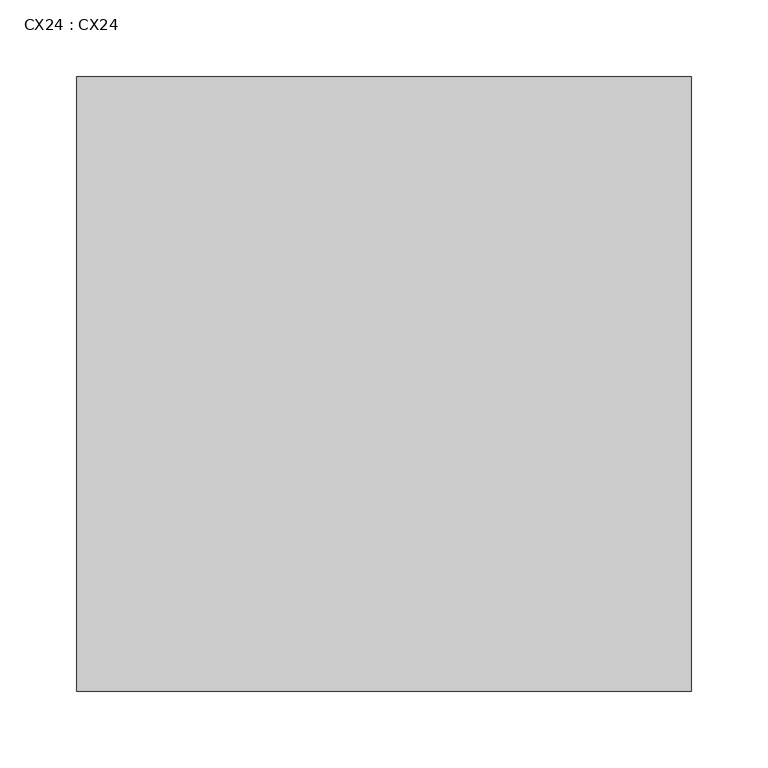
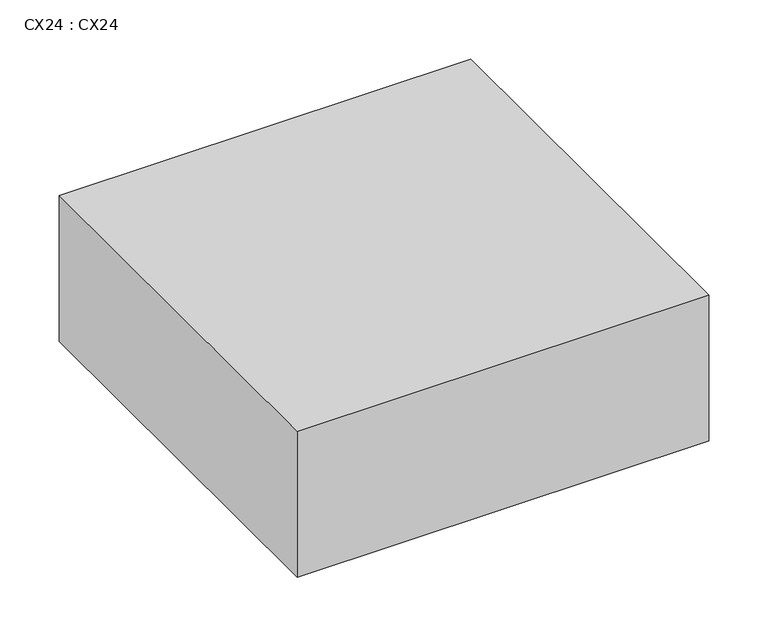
"""IFC4 building model written with IfcOpenShell, lengths in millimetres: proxy geometry, CX24 : CX24."""

from ifc_helpers import new_model, si_unit, frame, origin, place, context, project, spatial, polyline, outline, extrude, source, transform, mapped, element, save


def cx24_cx24_21936dc7(model_context):
    return source(origin(), model_context, "Body", "SweptSolid", [
        extrude(outline(polyline([(8044.94, 27559.0), (7644.94, 27559.0), (7644.94, 27959.0), (8044.94, 27959.0), (8044.94, 27559.0)])), frame((0.0, 0.0, 2870.0), z_axis=(0.0, 0.0, 1.0), x_axis=(1.0, 0.0, 0.0)), (0.0, 0.0, 1.0), 150.0),
    ])


if __name__ == "__main__":
    model = new_model("IFC4")
    model_context = context("Model", 3, world=origin())
    ifc_project = project(units=[si_unit("LENGTHUNIT", "METRE", prefix="MILLI")], contexts=[model_context])
    site = spatial("IfcSite", under=ifc_project)
    building = spatial("IfcBuilding", under=site)
    placement = place(None, origin())
    cx24_cx24_shape = cx24_cx24_21936dc7(model_context)
    element("IfcBuildingElementProxy", 1, Name="CX24 : CX24", ObjectType="CX24 : CX24", at=placement, inside=building, context=model_context, shape_type="MappedRepresentation", body=[
        mapped(cx24_cx24_shape, transform((0.0, 0.0, 0.0), x_axis=(1.0, 0.0, 0.0), y_axis=(0.0, 1.0, 0.0), z_axis=(0.0, 0.0, 1.0))),
    ])
    save(model, "model.ifc")
